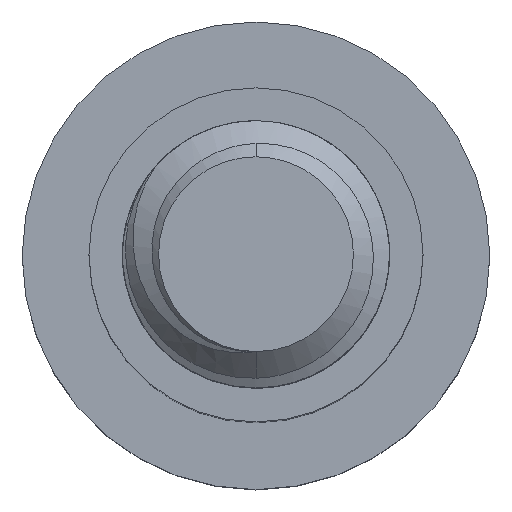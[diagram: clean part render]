
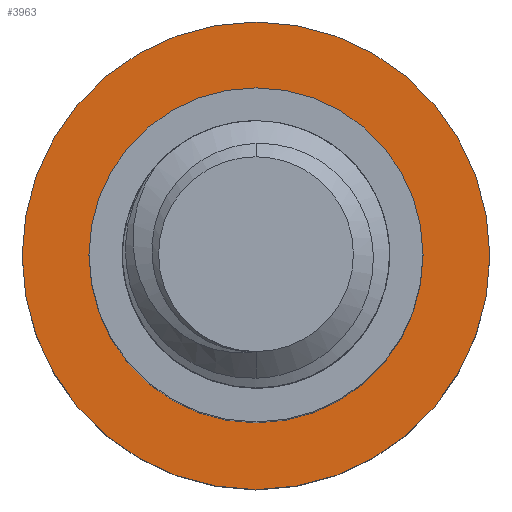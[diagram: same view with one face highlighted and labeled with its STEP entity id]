
A CAD part, top view. The second image highlights one B-rep face of the part: STEP entity #3963.
In plain terms, the highlighted planar face has unit normal (0, 0, 1).
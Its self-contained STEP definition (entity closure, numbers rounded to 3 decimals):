
#10 = DIRECTION ( 'NONE',  ( -1., 0., 0. ) ) ;
#52 = DIRECTION ( 'NONE',  ( -1., 0., 0. ) ) ;
#189 = DIRECTION ( 'NONE',  ( 0., 0., -1. ) ) ;
#414 = ORIENTED_EDGE ( 'NONE', *, *, #3986, .T. ) ;
#516 = DIRECTION ( 'NONE',  ( -1., 0., 0. ) ) ;
#544 = VERTEX_POINT ( 'NONE', #3574 ) ;
#581 = AXIS2_PLACEMENT_3D ( 'NONE', #3402, #189, #1805 ) ;
#700 = DIRECTION ( 'NONE',  ( 0., 0., -1. ) ) ;
#797 = FACE_BOUND ( 'NONE', #1942, .T. ) ;
#914 = ORIENTED_EDGE ( 'NONE', *, *, #3073, .F. ) ;
#1001 = CIRCLE ( 'NONE', #1467, 5. ) ;
#1164 = CARTESIAN_POINT ( 'NONE',  ( 7., 0., -16. ) ) ;
#1197 = CARTESIAN_POINT ( 'NONE',  ( -7., 0., -16. ) ) ;
#1293 = DIRECTION ( 'NONE',  ( 0., 0., -1. ) ) ;
#1368 = VERTEX_POINT ( 'NONE', #1164 ) ;
#1467 = AXIS2_PLACEMENT_3D ( 'NONE', #3448, #3085, #516 ) ;
#1534 = CIRCLE ( 'NONE', #3584, 7. ) ;
#1557 = VERTEX_POINT ( 'NONE', #3677 ) ;
#1610 = CARTESIAN_POINT ( 'NONE',  ( 0., 0., -16. ) ) ;
#1793 = EDGE_CURVE ( 'NONE', #1368, #2329, #1534, .T. ) ;
#1805 = DIRECTION ( 'NONE',  ( -1., 0., 0. ) ) ;
#1942 = EDGE_LOOP ( 'NONE', ( #3971, #414 ) ) ;
#2086 = AXIS2_PLACEMENT_3D ( 'NONE', #3312, #2655, #52 ) ;
#2148 = PLANE ( 'NONE',  #581 ) ;
#2329 = VERTEX_POINT ( 'NONE', #1197 ) ;
#2569 = AXIS2_PLACEMENT_3D ( 'NONE', #1610, #1293, #2595 ) ;
#2570 = CARTESIAN_POINT ( 'NONE',  ( 0., 0., -16. ) ) ;
#2595 = DIRECTION ( 'NONE',  ( -1., 0., 0. ) ) ;
#2596 = ORIENTED_EDGE ( 'NONE', *, *, #1793, .F. ) ;
#2655 = DIRECTION ( 'NONE',  ( 0., 0., -1. ) ) ;
#2842 = CIRCLE ( 'NONE', #2569, 7. ) ;
#3073 = EDGE_CURVE ( 'NONE', #2329, #1368, #2842, .T. ) ;
#3085 = DIRECTION ( 'NONE',  ( 0., 0., -1. ) ) ;
#3156 = EDGE_CURVE ( 'NONE', #544, #1557, #3929, .T. ) ;
#3312 = CARTESIAN_POINT ( 'NONE',  ( 0., 0., -16. ) ) ;
#3402 = CARTESIAN_POINT ( 'NONE',  ( 0., 0., -16. ) ) ;
#3410 = EDGE_LOOP ( 'NONE', ( #2596, #914 ) ) ;
#3423 = FACE_OUTER_BOUND ( 'NONE', #3410, .T. ) ;
#3448 = CARTESIAN_POINT ( 'NONE',  ( 0., 0., -16. ) ) ;
#3574 = CARTESIAN_POINT ( 'NONE',  ( -5., 0., -16. ) ) ;
#3584 = AXIS2_PLACEMENT_3D ( 'NONE', #2570, #700, #10 ) ;
#3677 = CARTESIAN_POINT ( 'NONE',  ( 5., 0., -16. ) ) ;
#3929 = CIRCLE ( 'NONE', #2086, 5. ) ;
#3963 = ADVANCED_FACE ( 'NONE', ( #797, #3423 ), #2148, .F. ) ;
#3971 = ORIENTED_EDGE ( 'NONE', *, *, #3156, .T. ) ;
#3986 = EDGE_CURVE ( 'NONE', #1557, #544, #1001, .T. ) ;
